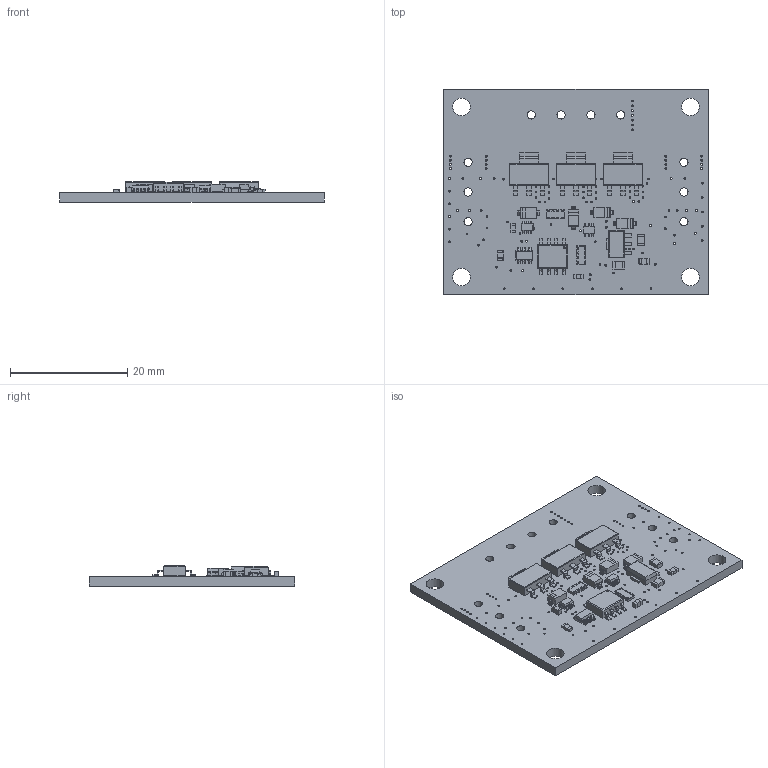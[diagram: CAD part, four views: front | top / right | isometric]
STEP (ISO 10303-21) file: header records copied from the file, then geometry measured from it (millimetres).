
FILE_DESCRIPTION(/* description */ (''),/* implementation_level */ '2;1');
FILE_NAME(/* name */ 'ws2816.step',/* time_stamp */ '2024-06-02T05:51:54-05:00',/* author */ (''),/* organization */ (''),/* preprocessor_version */ 'ST-DEVELOPER v20',/* originating_system */ 'Autodesk Translation Framework v13.14.0.145',/* authorisation */ '');
FILE_SCHEMA (('AUTOMOTIVE_DESIGN { 1 0 10303 214 3 1 1 }'));
Length unit declared in the file: millimetre
Products named in the file (14): ws2816-mosfet-driver; Board; Packages; SMD2,54-5,08-NOPASTE; SOIC-8; SOT223; SOT-363_DIO; SOT-89; C0805; R0603; C0603; 0603-ARV; SOD123; SOT23-6
Assembly tree (32 placements, depth 3):
  ws2816-mosfet-driver
    Board
    Packages
      SOT-363_DIO  x2
      SMD2,54-5,08-NOPASTE  x10
      SOIC-8
      SOT223  x3
      C0603  x2
      0603-ARV  x2
      SOT-89
      C0805  x2
      R0603  x2
      SOD123  x4
      SOT23-6
Bounding box: 45 x 35 x 3.47 mm (x, y, z)
Volume: 2775.7 mm3; surface area: 4384.7 mm2
Topology: 21 solids, 21 shells, 1473 faces, 3902 edges, 2504 vertices
Faces by surface type: plane 919, cylinder 448, bspline 58, sphere 48
Full cylindrical faces by diameter (mm): 0.3 x142, 1.4 x10, 3 x4
Entity records: 28807 total; most frequent: CARTESIAN_POINT 5051, DIRECTION 4647, ORIENTED_EDGE 4626, EDGE_CURVE 2313, LINE 1627, VECTOR 1627, AXIS2_PLACEMENT_3D 1510, VERTEX_POINT 1490
